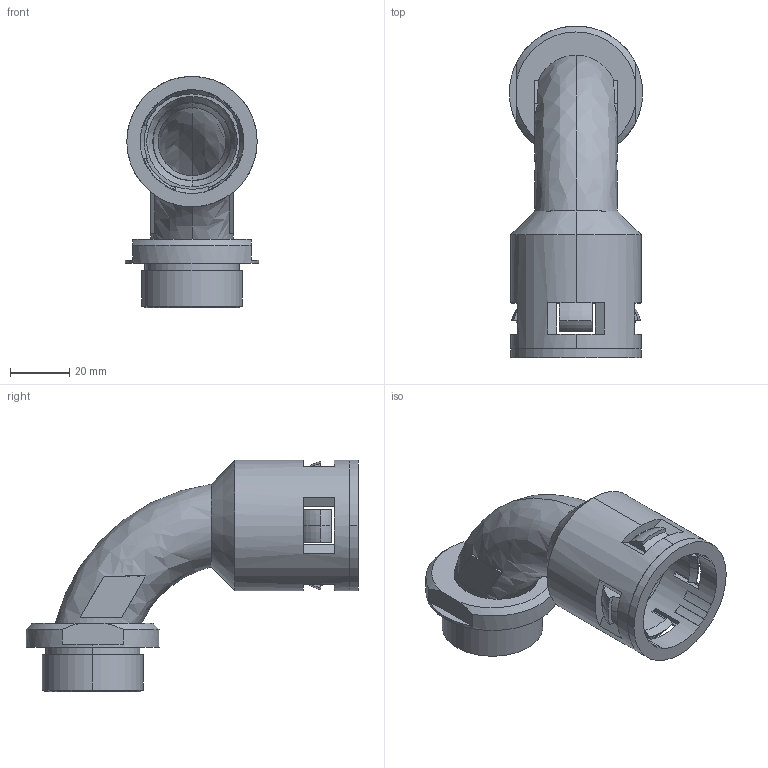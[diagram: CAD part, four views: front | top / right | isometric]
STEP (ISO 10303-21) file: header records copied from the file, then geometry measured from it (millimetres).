
FILE_DESCRIPTION (( 'STEP AP203' ), '1' );
FILE_NAME ('WQBW-M32-AD34.5.STEP', '2020-03-04T05:05:43', ( '' ), ( '' ), 'SwSTEP 2.0', 'SolidWorks 2016', '' );
FILE_SCHEMA (( 'CONFIG_CONTROL_DESIGN' ));
Length unit declared in the file: millimetre
Products named in the file (4): GFD-AD34.5; WQBW-M32-AD34.5-01; WQBW-M32-AD34.5; NSK-AD34.5
Assembly tree (3 placements, depth 2):
  WQBW-M32-AD34.5
    WQBW-M32-AD34.5-01
    GFD-AD34.5
    NSK-AD34.5
Bounding box: 45 x 112 x 78 mm (x, y, z)
Volume: 48604.9 mm3; surface area: 37289.5 mm2
Topology: 3 solids, 3 shells, 249 faces, 652 edges, 410 vertices
Faces by surface type: plane 123, cone 57, cylinder 34, torus 31, bspline 4
Entity records: 8578 total; most frequent: CARTESIAN_POINT 1876, DIRECTION 1389, ORIENTED_EDGE 1304, EDGE_CURVE 652, AXIS2_PLACEMENT_3D 538, VERTEX_POINT 410, LINE 313, VECTOR 313
